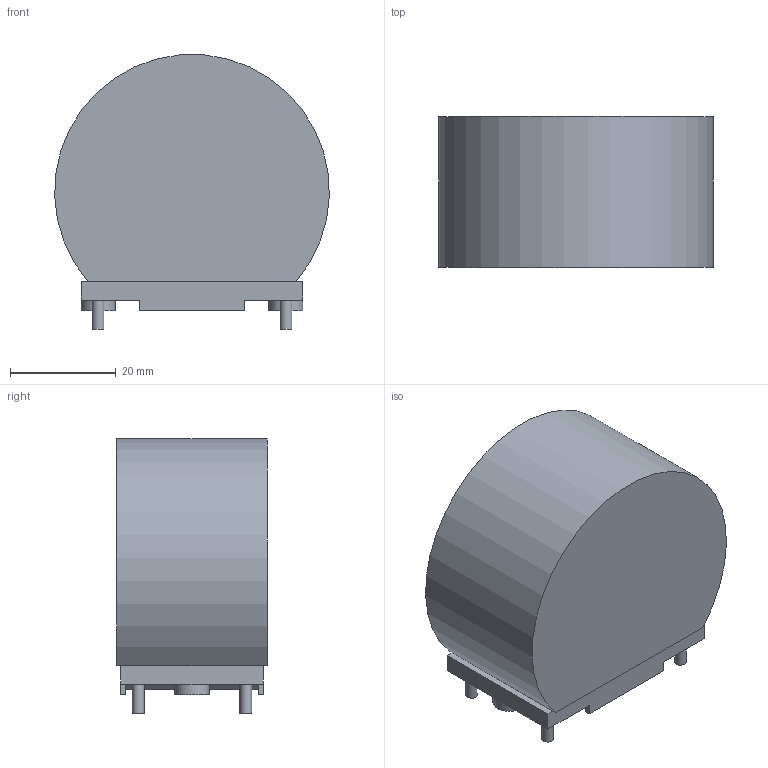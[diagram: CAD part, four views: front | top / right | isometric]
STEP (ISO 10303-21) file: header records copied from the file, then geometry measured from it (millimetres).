
FILE_DESCRIPTION(/* description */ (''),/* implementation_level */ '2;1');
FILE_NAME(/* name */ 'F:\Done\2016\多产品3D模拟\\X2\4FEE653994885F84\X0\\6128-X226\6128-X226 3D Model.stp',/* time_stamp */ '2016-07-11T09:12:14+08:00',/* author */ ('CN000562'),/* organization */ (''),/* preprocessor_version */ 'ST-DEVELOPER v16.5',/* originating_system */ 'Autodesk Inventor 2017',/* authorisation */ '');
FILE_SCHEMA (('AUTOMOTIVE_DESIGN { 1 0 10303 214 3 1 1 }'));
Length unit declared in the file: millimetre
Products named in the file (1): 6126-X216 3D Model
Bounding box: 51.97 x 28.5 x 51.91 mm (x, y, z)
Volume: 58129.2 mm3; surface area: 9330.3 mm2
Topology: 1 solids, 1 shells, 46 faces, 107 edges, 69 vertices
Faces by surface type: plane 39, cylinder 7
Full cylindrical faces by diameter (mm): 2.24 x4, 6.44 x2
Entity records: 1280 total; most frequent: CARTESIAN_POINT 215, DIRECTION 208, ORIENTED_EDGE 200, EDGE_CURVE 100, LINE 86, VECTOR 86, VERTEX_POINT 68, AXIS2_PLACEMENT_3D 61
